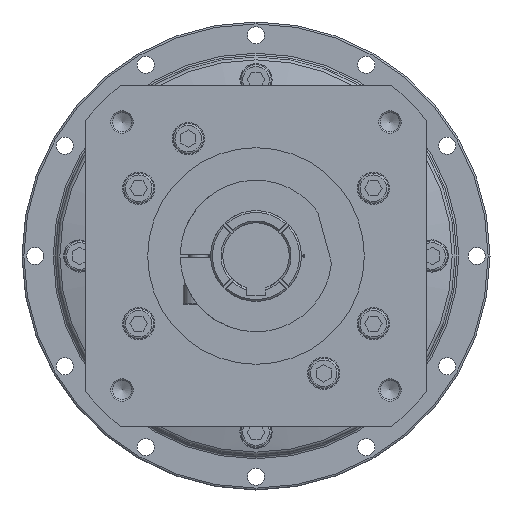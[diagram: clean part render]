
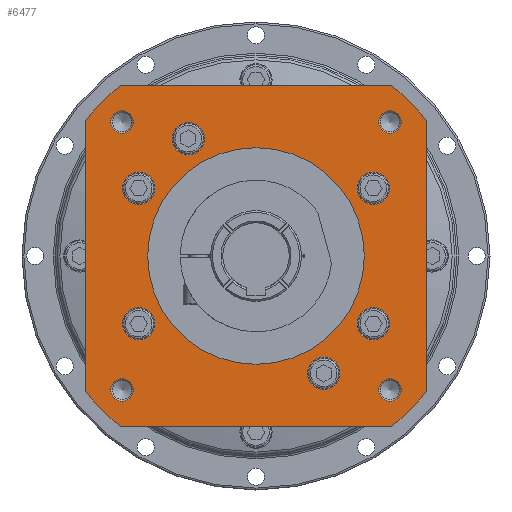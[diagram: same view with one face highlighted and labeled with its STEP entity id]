
A CAD part, left-side view. The second image highlights one B-rep face of the part: STEP entity #6477.
In plain terms, the highlighted planar face has unit normal (-1, 0, 0) as drawn and (0, 0, 1) by its records, which use the part's own axes.
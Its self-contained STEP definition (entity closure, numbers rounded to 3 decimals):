
#236=LINE('',#10659,#682);
#240=LINE('',#10671,#686);
#244=LINE('',#10685,#690);
#248=LINE('',#10697,#694);
#682=VECTOR('',#8542,1000.);
#686=VECTOR('',#8554,1000.);
#690=VECTOR('',#8568,1000.);
#694=VECTOR('',#8580,1000.);
#2019=ORIENTED_EDGE('',*,*,#3203,.F.);
#2020=ORIENTED_EDGE('',*,*,#3204,.F.);
#2021=ORIENTED_EDGE('',*,*,#3205,.F.);
#2022=ORIENTED_EDGE('',*,*,#3206,.F.);
#2023=ORIENTED_EDGE('',*,*,#3207,.F.);
#2024=ORIENTED_EDGE('',*,*,#3208,.F.);
#2025=ORIENTED_EDGE('',*,*,#3209,.T.);
#2026=ORIENTED_EDGE('',*,*,#3210,.T.);
#2027=ORIENTED_EDGE('',*,*,#3211,.T.);
#2028=ORIENTED_EDGE('',*,*,#3212,.T.);
#2029=ORIENTED_EDGE('',*,*,#3213,.T.);
#2030=ORIENTED_EDGE('',*,*,#3176,.T.);
#2031=ORIENTED_EDGE('',*,*,#3181,.T.);
#2032=ORIENTED_EDGE('',*,*,#3184,.T.);
#2033=ORIENTED_EDGE('',*,*,#3187,.T.);
#2034=ORIENTED_EDGE('',*,*,#3190,.T.);
#2035=ORIENTED_EDGE('',*,*,#3194,.T.);
#2036=ORIENTED_EDGE('',*,*,#3197,.T.);
#2037=ORIENTED_EDGE('',*,*,#3200,.T.);
#3176=EDGE_CURVE('',#3913,#3914,#4373,.T.);
#3181=EDGE_CURVE('',#3914,#3918,#236,.T.);
#3184=EDGE_CURVE('',#3918,#3920,#4376,.T.);
#3187=EDGE_CURVE('',#3920,#3922,#240,.T.);
#3190=EDGE_CURVE('',#3922,#3924,#4378,.T.);
#3194=EDGE_CURVE('',#3924,#3927,#244,.T.);
#3197=EDGE_CURVE('',#3927,#3929,#4381,.T.);
#3200=EDGE_CURVE('',#3929,#3913,#248,.T.);
#3203=EDGE_CURVE('',#3932,#3932,#4384,.T.);
#3204=EDGE_CURVE('',#3933,#3933,#4385,.T.);
#3205=EDGE_CURVE('',#3934,#3934,#4386,.T.);
#3206=EDGE_CURVE('',#3935,#3935,#4387,.T.);
#3207=EDGE_CURVE('',#3936,#3936,#4388,.T.);
#3208=EDGE_CURVE('',#3937,#3937,#4389,.T.);
#3209=EDGE_CURVE('',#3938,#3938,#4390,.T.);
#3210=EDGE_CURVE('',#3939,#3939,#4391,.T.);
#3211=EDGE_CURVE('',#3940,#3940,#4392,.T.);
#3212=EDGE_CURVE('',#3941,#3941,#4393,.T.);
#3213=EDGE_CURVE('',#3942,#3942,#4394,.T.);
#3913=VERTEX_POINT('',#10649);
#3914=VERTEX_POINT('',#10650);
#3918=VERTEX_POINT('',#10660);
#3920=VERTEX_POINT('',#10666);
#3922=VERTEX_POINT('',#10672);
#3924=VERTEX_POINT('',#10678);
#3927=VERTEX_POINT('',#10686);
#3929=VERTEX_POINT('',#10692);
#3932=VERTEX_POINT('',#10704);
#3933=VERTEX_POINT('',#10706);
#3934=VERTEX_POINT('',#10708);
#3935=VERTEX_POINT('',#10710);
#3936=VERTEX_POINT('',#10712);
#3937=VERTEX_POINT('',#10714);
#3938=VERTEX_POINT('',#10716);
#3939=VERTEX_POINT('',#10718);
#3940=VERTEX_POINT('',#10720);
#3941=VERTEX_POINT('',#10722);
#3942=VERTEX_POINT('',#10724);
#4373=CIRCLE('',#7140,115.);
#4376=CIRCLE('',#7145,115.);
#4378=CIRCLE('',#7149,115.);
#4381=CIRCLE('',#7154,115.);
#4384=CIRCLE('',#7160,8.5);
#4385=CIRCLE('',#7161,8.5);
#4386=CIRCLE('',#7162,8.5);
#4387=CIRCLE('',#7163,8.5);
#4388=CIRCLE('',#7164,8.5);
#4389=CIRCLE('',#7165,8.5);
#4390=CIRCLE('',#7166,6.);
#4391=CIRCLE('',#7167,6.);
#4392=CIRCLE('',#7168,6.);
#4393=CIRCLE('',#7169,6.);
#4394=CIRCLE('',#7170,57.15);
#4974=EDGE_LOOP('',(#2019));
#4975=EDGE_LOOP('',(#2020));
#4976=EDGE_LOOP('',(#2021));
#4977=EDGE_LOOP('',(#2022));
#4978=EDGE_LOOP('',(#2023));
#4979=EDGE_LOOP('',(#2024));
#4980=EDGE_LOOP('',(#2025));
#4981=EDGE_LOOP('',(#2026));
#4982=EDGE_LOOP('',(#2027));
#4983=EDGE_LOOP('',(#2028));
#4984=EDGE_LOOP('',(#2029));
#4985=EDGE_LOOP('',(#2030,#2031,#2032,#2033,#2034,#2035,#2036,#2037));
#5713=FACE_BOUND('',#4974,.T.);
#5714=FACE_BOUND('',#4975,.T.);
#5715=FACE_BOUND('',#4976,.T.);
#5716=FACE_BOUND('',#4977,.T.);
#5717=FACE_BOUND('',#4978,.T.);
#5718=FACE_BOUND('',#4979,.T.);
#5719=FACE_BOUND('',#4980,.T.);
#5720=FACE_BOUND('',#4981,.T.);
#5721=FACE_BOUND('',#4982,.T.);
#5722=FACE_BOUND('',#4983,.T.);
#5723=FACE_BOUND('',#4984,.T.);
#5724=FACE_BOUND('',#4985,.T.);
#6109=PLANE('',#7159);
#6477=ADVANCED_FACE('',(#5713,#5714,#5715,#5716,#5717,#5718,#5719,#5720,
#5721,#5722,#5723,#5724),#6109,.T.);
#7140=AXIS2_PLACEMENT_3D('',#10648,#8532,#8533);
#7145=AXIS2_PLACEMENT_3D('',#10665,#8547,#8548);
#7149=AXIS2_PLACEMENT_3D('',#10677,#8559,#8560);
#7154=AXIS2_PLACEMENT_3D('',#10691,#8573,#8574);
#7159=AXIS2_PLACEMENT_3D('',#10702,#8586,#8587);
#7160=AXIS2_PLACEMENT_3D('',#10703,#8588,#8589);
#7161=AXIS2_PLACEMENT_3D('',#10705,#8590,#8591);
#7162=AXIS2_PLACEMENT_3D('',#10707,#8592,#8593);
#7163=AXIS2_PLACEMENT_3D('',#10709,#8594,#8595);
#7164=AXIS2_PLACEMENT_3D('',#10711,#8596,#8597);
#7165=AXIS2_PLACEMENT_3D('',#10713,#8598,#8599);
#7166=AXIS2_PLACEMENT_3D('',#10715,#8600,#8601);
#7167=AXIS2_PLACEMENT_3D('',#10717,#8602,#8603);
#7168=AXIS2_PLACEMENT_3D('',#10719,#8604,#8605);
#7169=AXIS2_PLACEMENT_3D('',#10721,#8606,#8607);
#7170=AXIS2_PLACEMENT_3D('',#10723,#8608,#8609);
#8532=DIRECTION('',(0.,0.,1.));
#8533=DIRECTION('',(1.,0.,0.));
#8542=DIRECTION('',(0.,-1.,0.));
#8547=DIRECTION('',(0.,0.,1.));
#8548=DIRECTION('',(1.,0.,0.));
#8554=DIRECTION('',(1.,0.,0.));
#8559=DIRECTION('',(0.,0.,1.));
#8560=DIRECTION('',(1.,0.,0.));
#8568=DIRECTION('',(0.,1.,0.));
#8573=DIRECTION('',(0.,0.,1.));
#8574=DIRECTION('',(1.,0.,0.));
#8580=DIRECTION('',(-1.,0.,0.));
#8586=DIRECTION('',(0.,0.,1.));
#8587=DIRECTION('',(1.,0.,0.));
#8588=DIRECTION('',(0.,0.,1.));
#8589=DIRECTION('',(1.,0.,0.));
#8590=DIRECTION('',(0.,0.,1.));
#8591=DIRECTION('',(1.,0.,0.));
#8592=DIRECTION('',(0.,0.,1.));
#8593=DIRECTION('',(1.,0.,0.));
#8594=DIRECTION('',(0.,0.,1.));
#8595=DIRECTION('',(1.,0.,0.));
#8596=DIRECTION('',(0.,0.,1.));
#8597=DIRECTION('',(1.,0.,0.));
#8598=DIRECTION('',(0.,0.,1.));
#8599=DIRECTION('',(1.,0.,0.));
#8600=DIRECTION('',(0.,0.,-1.));
#8601=DIRECTION('',(-1.,0.,0.));
#8602=DIRECTION('',(0.,0.,-1.));
#8603=DIRECTION('',(-1.,0.,0.));
#8604=DIRECTION('',(0.,0.,-1.));
#8605=DIRECTION('',(-1.,0.,0.));
#8606=DIRECTION('',(0.,0.,-1.));
#8607=DIRECTION('',(-1.,0.,0.));
#8608=DIRECTION('',(0.,0.,-1.));
#8609=DIRECTION('',(-1.,0.,0.));
#10648=CARTESIAN_POINT('',(0.,0.,0.));
#10649=CARTESIAN_POINT('',(-71.589,90.,0.));
#10650=CARTESIAN_POINT('',(-90.,71.589,0.));
#10659=CARTESIAN_POINT('',(-90.,71.589,0.));
#10660=CARTESIAN_POINT('',(-90.,-71.589,0.));
#10665=CARTESIAN_POINT('',(0.,0.,0.));
#10666=CARTESIAN_POINT('',(-71.589,-90.,0.));
#10671=CARTESIAN_POINT('',(-71.589,-90.,0.));
#10672=CARTESIAN_POINT('',(71.589,-90.,0.));
#10677=CARTESIAN_POINT('',(0.,0.,0.));
#10678=CARTESIAN_POINT('',(90.,-71.589,0.));
#10685=CARTESIAN_POINT('',(90.,-71.589,0.));
#10686=CARTESIAN_POINT('',(90.,71.589,0.));
#10691=CARTESIAN_POINT('',(0.,0.,0.));
#10692=CARTESIAN_POINT('',(71.589,90.,0.));
#10697=CARTESIAN_POINT('',(71.589,90.,0.));
#10702=CARTESIAN_POINT('',(0.,0.,0.));
#10703=CARTESIAN_POINT('',(-61.921,-35.75,0.));
#10704=CARTESIAN_POINT('',(-53.421,-35.75,0.));
#10705=CARTESIAN_POINT('',(35.75,-61.921,0.));
#10706=CARTESIAN_POINT('',(44.25,-61.921,0.));
#10707=CARTESIAN_POINT('',(-35.75,61.921,0.));
#10708=CARTESIAN_POINT('',(-27.25,61.921,0.));
#10709=CARTESIAN_POINT('',(-35.75,-61.921,0.));
#10710=CARTESIAN_POINT('',(-27.25,-61.921,0.));
#10711=CARTESIAN_POINT('',(35.75,61.921,0.));
#10712=CARTESIAN_POINT('',(44.25,61.921,0.));
#10713=CARTESIAN_POINT('',(61.921,35.75,0.));
#10714=CARTESIAN_POINT('',(70.421,35.75,0.));
#10715=CARTESIAN_POINT('',(-70.711,70.711,0.));
#10716=CARTESIAN_POINT('',(-76.711,70.711,0.));
#10717=CARTESIAN_POINT('',(-70.711,-70.711,0.));
#10718=CARTESIAN_POINT('',(-76.711,-70.711,0.));
#10719=CARTESIAN_POINT('',(70.711,-70.711,0.));
#10720=CARTESIAN_POINT('',(64.711,-70.711,0.));
#10721=CARTESIAN_POINT('',(70.711,70.711,0.));
#10722=CARTESIAN_POINT('',(64.711,70.711,0.));
#10723=CARTESIAN_POINT('',(0.,0.,0.));
#10724=CARTESIAN_POINT('',(-57.15,0.,0.));
